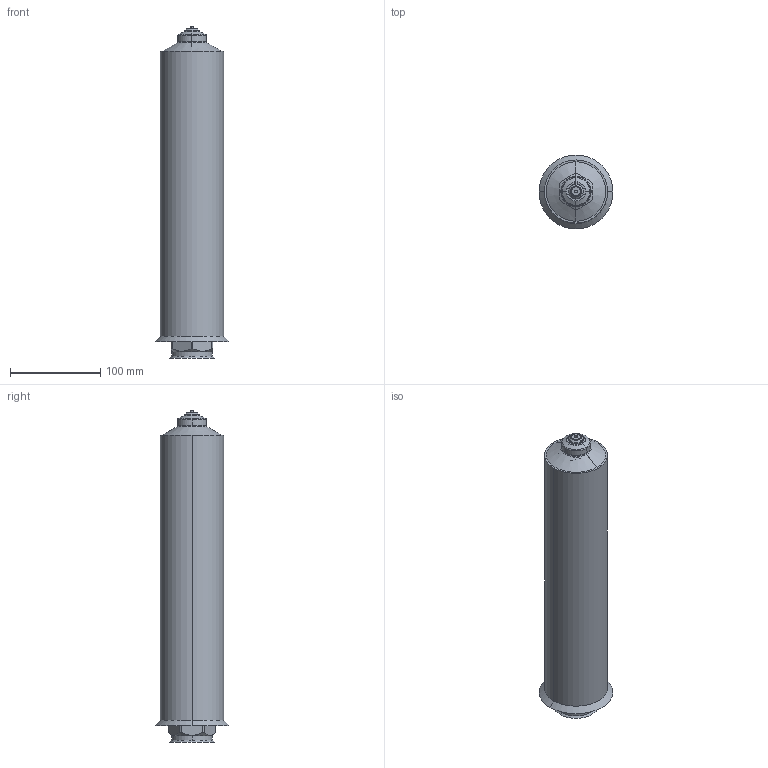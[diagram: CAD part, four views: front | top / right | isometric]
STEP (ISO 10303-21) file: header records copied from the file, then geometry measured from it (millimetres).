
FILE_DESCRIPTION (( 'STEP AP214' ), '1' );
FILE_NAME ('T20_OPEN_350_HELICAL_70.STEP', '2009-05-11T13:16:06', ( 'Synventive Molding Solutions' ), ( 'Synventive Molding Solutions' ), 'SwSTEP 2.0', 'SolidWorks 2008', '' );
FILE_SCHEMA (( 'AUTOMOTIVE_DESIGN' ));
Length unit declared in the file: millimetre
Products named in the file (1): T20_OPEN_350_HELICAL_70
Bounding box: 82 x 82 x 368 mm (x, y, z)
Volume: 1881224.7 mm3; surface area: 153831.5 mm2
Topology: 2 solids, 2 shells, 259 faces, 668 edges, 424 vertices
Faces by surface type: cylinder 89, plane 75, bspline 35, torus 34, cone 26
Entity records: 21278 total; most frequent: CARTESIAN_POINT 12563, ORIENTED_EDGE 1336, DIRECTION 1109, EDGE_CURVE 668, AXIS2_PLACEMENT_3D 441, VERTEX_POINT 424, EDGE_LOOP 274, UNCERTAINTY_MEASURE_WITH_UNIT 261
